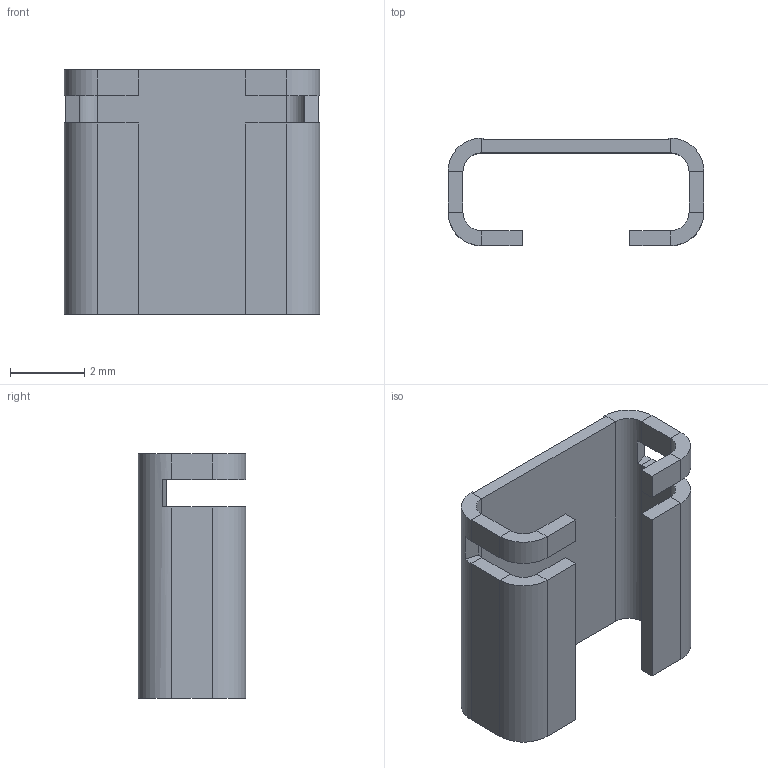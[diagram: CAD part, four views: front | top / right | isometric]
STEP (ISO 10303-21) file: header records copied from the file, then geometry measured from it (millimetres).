
FILE_DESCRIPTION (( 'STEP AP203' ), '1' );
FILE_NAME ('RSHJ2726-3.0m次-F曾磁踢.STEP', '2023-07-17T03:05:05', ( '' ), ( '' ), 'SwSTEP 2.0', 'SolidWorks 2020', '' );
FILE_SCHEMA (( 'CONFIG_CONTROL_DESIGN' ));
Length unit declared in the file: millimetre
Products named in the file (1): RSHJ2726-3.0m次-F曾磁踢
Bounding box: 6.9 x 2.9 x 6.6 mm (x, y, z)
Volume: 33 mm3; surface area: 195.3 mm2
Topology: 1 solids, 1 shells, 74 faces, 160 edges, 88 vertices
Faces by surface type: plane 62, cylinder 12
Entity records: 2005 total; most frequent: DIRECTION 342, CARTESIAN_POINT 323, ORIENTED_EDGE 320, EDGE_CURVE 160, VECTOR 128, LINE 128, AXIS2_PLACEMENT_3D 107, VERTEX_POINT 88
